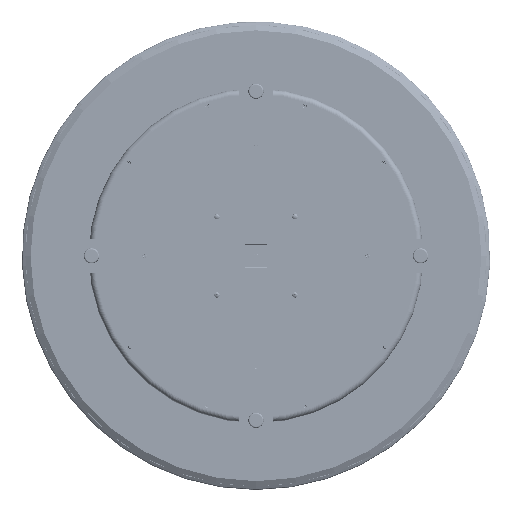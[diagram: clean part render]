
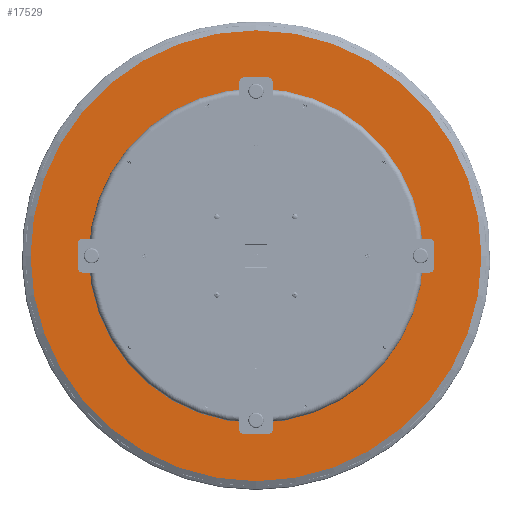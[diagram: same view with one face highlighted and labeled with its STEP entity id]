
A CAD part, front view. The second image highlights one B-rep face of the part: STEP entity #17529.
In plain terms, the highlighted planar face has unit normal (0, -1, 0).
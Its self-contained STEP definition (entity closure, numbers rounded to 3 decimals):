
#1771=PLANE('',#19832);
#2698=FACE_OUTER_BOUND('',#3888,.T.);
#3888=EDGE_LOOP('',(#15564));
#7164=CIRCLE('',#19829,20.213);
#8646=VERTEX_POINT('',#45517);
#10988=EDGE_CURVE('',#8646,#8646,#7164,.T.);
#15564=ORIENTED_EDGE('',*,*,#10988,.T.);
#17529=ADVANCED_FACE('',(#2698),#1771,.F.);
#19829=AXIS2_PLACEMENT_3D('',#45518,#24296,#24297);
#19832=AXIS2_PLACEMENT_3D('',#45523,#24303,#24304);
#24296=DIRECTION('center_axis',(0.,-1.,0.));
#24297=DIRECTION('ref_axis',(0.,0.,1.));
#24303=DIRECTION('center_axis',(0.,1.,0.));
#24304=DIRECTION('ref_axis',(0.,0.,1.));
#45517=CARTESIAN_POINT('',(0.,0.,-20.213));
#45518=CARTESIAN_POINT('Origin',(0.,0.,0.));
#45523=CARTESIAN_POINT('Origin',(0.,0.,0.));
